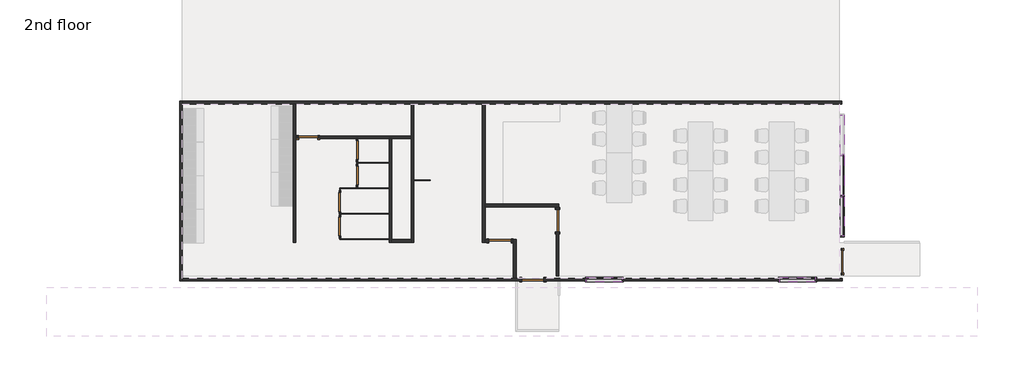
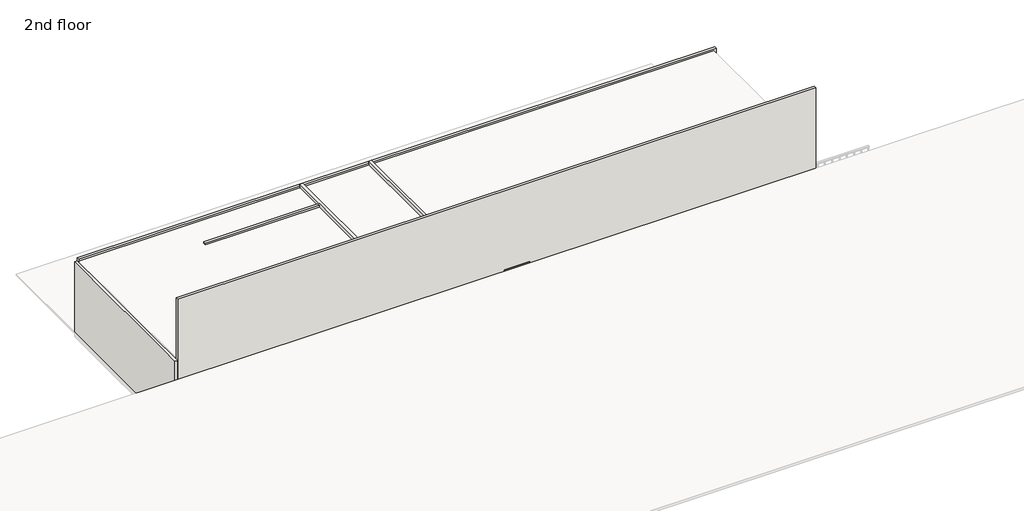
# One storey, part 1 of 2: 21 walls, 14 members, 9 doors, 4 plates.
"""IFC4 building model written with IfcOpenShell, lengths in millimetres."""

from ifc_helpers import new_model, si_unit, frame, origin, place, context, project, spatial, polyline, outline, extrude, faceted_brep, transform, mapped, element, save
from components import m_single_flush_0813_x_2030mm_0e9c7165, m_single_flush_0813_x_2030mm_4a34e6f7, m_single_flush_0813_x_2030mm_d505ac39, m_single_flush_700_x_2030mm_2d3d4a98, m_single_flush_700_x_2030mm_a4fa4ead, m_single_flush_700_x_2030mm_d9138d7c, rectangular_mullion_50_x_150mm_6053375a, rectangular_mullion_50_x_150mm_cc4d4c51, rectangular_mullion_50_x_150mm_379ba6c0, rectangular_mullion_50_x_150mm_e3a7335b, rectangular_mullion_50_x_150mm_22afa1e4, rectangular_mullion_50_x_150mm_1e3c48d4, system_panel_glazed_3a8728e6, system_panel_glazed_0439a472, system_panel_glazed_186aa449

model = new_model("IFC4")

# Units and contexts
model_context = context("Model", 3, world=origin())
ifc_project = project(units=[si_unit("LENGTHUNIT", "METRE", prefix="MILLI")], contexts=[model_context])

# Site, building, storey
site = spatial("IfcSite", under=ifc_project)
building = spatial("IfcBuilding", under=site)
storey = spatial("IfcBuildingStorey", under=building, Name="2nd floor", Elevation=51027.1066037)

# Doors
placement = place(None, origin())
m_single_flush_0813_x_2030mm_shape = m_single_flush_0813_x_2030mm_0e9c7165(model_context)
element("IfcDoor", 1, ObjectType="M_Single-Flush : 0813 x 2030mm", at=placement, inside=storey, context=model_context, shape_type="MappedRepresentation", body=[
    mapped(m_single_flush_0813_x_2030mm_shape, transform((-93269.812261, 13369.2679026, 51027.1066037), x_axis=(-1.0, 0.0, 0.0), y_axis=(0.0, -1.0, 0.0), z_axis=(0.0, 0.0, 1.0))),
])
m_single_flush_0813_x_2030mm_2_shape = m_single_flush_0813_x_2030mm_4a34e6f7(model_context)
element("IfcDoor", 2, ObjectType="M_Single-Flush : 0813 x 2030mm", at=placement, inside=storey, context=model_context, shape_type="MappedRepresentation", body=[
    mapped(m_single_flush_0813_x_2030mm_2_shape, transform((-91169.0398328, 14103.601051, 51027.1066037), x_axis=(0.0, -1.0, 0.0), y_axis=(1.0, 0.0, 0.0), z_axis=(0.0, 0.0, 1.0))),
])
element("IfcDoor", 3, ObjectType="M_Single-Flush : 0813 x 2030mm", at=placement, inside=storey, context=model_context, shape_type="MappedRepresentation", body=[
    mapped(m_single_flush_0813_x_2030mm_2_shape, transform((-92068.4288687, 11958.2777512, 51027.1066037), x_axis=(-1.0, 0.0, 0.0), y_axis=(0.0, -1.0, 0.0), z_axis=(0.0, 0.0, 1.0))),
])
m_single_flush_0813_x_2030mm_3_shape = m_single_flush_0813_x_2030mm_d505ac39(model_context)
element("IfcDoor", 4, ObjectType="M_Single-Flush : 0813 x 2030mm", at=placement, inside=storey, context=model_context, shape_type="MappedRepresentation", body=[
    mapped(m_single_flush_0813_x_2030mm_3_shape, transform((-80781.5917799, 12615.7777512, 51027.1066037), x_axis=(0.0, -1.0, 0.0), y_axis=(1.0, 0.0, 0.0), z_axis=(0.0, 0.0, 1.0))),
])
m_single_flush_700_x_2030mm_shape = m_single_flush_700_x_2030mm_2d3d4a98(model_context)
element("IfcDoor", 5, ObjectType="M_Single-Flush : 700 x 2030mm", at=placement, inside=storey, context=model_context, shape_type="MappedRepresentation", body=[
    mapped(m_single_flush_700_x_2030mm_shape, transform((-98477.8066426, 16685.2754075, 51027.1066037), x_axis=(0.0, 1.0, 0.0), y_axis=(-1.0, 0.0, 0.0), z_axis=(0.0, 0.0, 1.0))),
])
element("IfcDoor", 6, ObjectType="M_Single-Flush : 700 x 2030mm", at=placement, inside=storey, context=model_context, shape_type="MappedRepresentation", body=[
    mapped(m_single_flush_700_x_2030mm_shape, transform((-98477.8066426, 15755.273259, 51027.1066037), x_axis=(0.0, 1.0, 0.0), y_axis=(-1.0, 0.0, 0.0), z_axis=(0.0, 0.0, 1.0))),
])
m_single_flush_700_x_2030mm_2_shape = m_single_flush_700_x_2030mm_a4fa4ead(model_context)
element("IfcDoor", 7, ObjectType="M_Single-Flush : 700 x 2030mm", at=placement, inside=storey, context=model_context, shape_type="MappedRepresentation", body=[
    mapped(m_single_flush_700_x_2030mm_2_shape, transform((-99097.8066426, 14781.2700364, 51027.1066037), x_axis=(0.0, 1.0, 0.0), y_axis=(-1.0, 0.0, 0.0), z_axis=(0.0, 0.0, 1.0))),
])
element("IfcDoor", 8, ObjectType="M_Single-Flush : 700 x 2030mm", at=placement, inside=storey, context=model_context, shape_type="MappedRepresentation", body=[
    mapped(m_single_flush_700_x_2030mm_2_shape, transform((-99097.8066426, 13895.2689695, 51027.1066037), x_axis=(0.0, 1.0, 0.0), y_axis=(-1.0, 0.0, 0.0), z_axis=(0.0, 0.0, 1.0))),
])
m_single_flush_700_x_2030mm_3_shape = m_single_flush_700_x_2030mm_d9138d7c(model_context)
element("IfcDoor", 9, ObjectType="M_Single-Flush : 700 x 2030mm", at=placement, inside=storey, context=model_context, shape_type="MappedRepresentation", body=[
    mapped(m_single_flush_700_x_2030mm_3_shape, transform((-100258.8199239, 17149.2679026, 51027.1066037), x_axis=(-1.0, 0.0, 0.0), y_axis=(0.0, -1.0, 0.0), z_axis=(0.0, 0.0, 1.0))),
])

# Members
rectangular_mullion_50_x_150mm_shape = rectangular_mullion_50_x_150mm_6053375a(model_context)
element("IfcMember", 10, ObjectType="Rectangular Mullion : 50 x 150mm", at=placement, inside=storey, context=model_context, shape_type="MappedRepresentation", body=[
    mapped(rectangular_mullion_50_x_150mm_shape, transform((-80781.5917799, 15007.4703268, 52160.2281004), x_axis=(0.0, -1.0, 0.0), y_axis=(-1.0, 0.0, 0.0), z_axis=(0.0, 0.0, -1.0))),
])
rectangular_mullion_50_x_150mm_2_shape = rectangular_mullion_50_x_150mm_cc4d4c51(model_context)
element("IfcMember", 11, ObjectType="Rectangular Mullion : 50 x 150mm", at=placement, inside=storey, context=model_context, shape_type="MappedRepresentation", body=[
    mapped(rectangular_mullion_50_x_150mm_2_shape, transform((-80781.5917799, 13507.4703267, 52160.2281004), x_axis=(0.0, -1.0, 0.0), y_axis=(-1.0, 0.0, 0.0), z_axis=(0.0, 0.0, -1.0))),
])
rectangular_mullion_50_x_150mm_3_shape = rectangular_mullion_50_x_150mm_379ba6c0(model_context)
element("IfcMember", 12, ObjectType="Rectangular Mullion : 50 x 150mm", at=placement, inside=storey, context=model_context, shape_type="MappedRepresentation", body=[
    mapped(rectangular_mullion_50_x_150mm_3_shape, transform((-80781.5917799, 14982.4703268, 52160.2281004), x_axis=(0.0, 0.0, -1.0), y_axis=(-1.0, 0.0, 0.0), z_axis=(0.0, 1.0, 0.0))),
])
element("IfcMember", 13, ObjectType="Rectangular Mullion : 50 x 150mm", at=placement, inside=storey, context=model_context, shape_type="MappedRepresentation", body=[
    mapped(rectangular_mullion_50_x_150mm_3_shape, transform((-80781.5917799, 13557.4703267, 53127.1066037), x_axis=(0.0, 0.0, 1.0), y_axis=(-1.0, 0.0, 0.0), z_axis=(0.0, -1.0, 0.0))),
])
element("IfcMember", 14, ObjectType="Rectangular Mullion : 50 x 150mm", at=placement, inside=storey, context=model_context, shape_type="MappedRepresentation", body=[
    mapped(rectangular_mullion_50_x_150mm_3_shape, transform((-80781.5917799, 16532.4703266, 53127.1066037), x_axis=(0.0, 0.0, 1.0), y_axis=(-1.0, 0.0, 0.0), z_axis=(0.0, -1.0, 0.0))),
])
rectangular_mullion_50_x_150mm_4_shape = rectangular_mullion_50_x_150mm_e3a7335b(model_context)
element("IfcMember", 15, ObjectType="Rectangular Mullion : 50 x 150mm", at=placement, inside=storey, context=model_context, shape_type="MappedRepresentation", body=[
    mapped(rectangular_mullion_50_x_150mm_4_shape, transform((-80781.5917799, 15032.4703268, 53127.1066037), x_axis=(0.0, 0.0, 1.0), y_axis=(-1.0, 0.0, 0.0), z_axis=(0.0, -1.0, 0.0))),
])
rectangular_mullion_50_x_150mm_5_shape = rectangular_mullion_50_x_150mm_22afa1e4(model_context)
element("IfcMember", 16, ObjectType="Rectangular Mullion : 50 x 150mm", at=placement, inside=storey, context=model_context, shape_type="MappedRepresentation", body=[
    mapped(rectangular_mullion_50_x_150mm_5_shape, transform((-81723.1454492, 11958.2777512, 52018.7758147), x_axis=(1.0, 0.0, 0.0), y_axis=(0.0, -1.0, 0.0), z_axis=(0.0, 0.0, -1.0))),
])
element("IfcMember", 17, ObjectType="Rectangular Mullion : 50 x 150mm", at=placement, inside=storey, context=model_context, shape_type="MappedRepresentation", body=[
    mapped(rectangular_mullion_50_x_150mm_5_shape, transform((-88763.1454492, 11958.2777512, 52018.7758147), x_axis=(1.0, 0.0, 0.0), y_axis=(0.0, -1.0, 0.0), z_axis=(0.0, 0.0, -1.0))),
])
element("IfcMember", 18, ObjectType="Rectangular Mullion : 50 x 150mm", at=placement, inside=storey, context=model_context, shape_type="MappedRepresentation", body=[
    mapped(rectangular_mullion_50_x_150mm_5_shape, transform((-83123.1454492, 11958.2777512, 52927.1066037), x_axis=(-1.0, 0.0, 0.0), y_axis=(0.0, -1.0, 0.0), z_axis=(0.0, 0.0, 1.0))),
])
element("IfcMember", 19, ObjectType="Rectangular Mullion : 50 x 150mm", at=placement, inside=storey, context=model_context, shape_type="MappedRepresentation", body=[
    mapped(rectangular_mullion_50_x_150mm_5_shape, transform((-90163.1454492, 11958.2777512, 52927.1066037), x_axis=(-1.0, 0.0, 0.0), y_axis=(0.0, -1.0, 0.0), z_axis=(0.0, 0.0, 1.0))),
])
rectangular_mullion_50_x_150mm_6_shape = rectangular_mullion_50_x_150mm_1e3c48d4(model_context)
element("IfcMember", 20, ObjectType="Rectangular Mullion : 50 x 150mm", at=placement, inside=storey, context=model_context, shape_type="MappedRepresentation", body=[
    mapped(rectangular_mullion_50_x_150mm_6_shape, transform((-81773.1454492, 11958.2777512, 52927.1066037), x_axis=(0.0, 0.0, 1.0), y_axis=(0.0, -1.0, 0.0), z_axis=(1.0, 0.0, 0.0))),
])
element("IfcMember", 21, ObjectType="Rectangular Mullion : 50 x 150mm", at=placement, inside=storey, context=model_context, shape_type="MappedRepresentation", body=[
    mapped(rectangular_mullion_50_x_150mm_6_shape, transform((-88813.1454492, 11958.2777512, 52927.1066037), x_axis=(0.0, 0.0, 1.0), y_axis=(0.0, -1.0, 0.0), z_axis=(1.0, 0.0, 0.0))),
])
element("IfcMember", 22, ObjectType="Rectangular Mullion : 50 x 150mm", at=placement, inside=storey, context=model_context, shape_type="MappedRepresentation", body=[
    mapped(rectangular_mullion_50_x_150mm_6_shape, transform((-83073.1454492, 11958.2777512, 52018.7758147), x_axis=(0.0, 0.0, -1.0), y_axis=(0.0, -1.0, 0.0), z_axis=(-1.0, 0.0, 0.0))),
])
element("IfcMember", 23, ObjectType="Rectangular Mullion : 50 x 150mm", at=placement, inside=storey, context=model_context, shape_type="MappedRepresentation", body=[
    mapped(rectangular_mullion_50_x_150mm_6_shape, transform((-90113.1454492, 11958.2777512, 52018.7758147), x_axis=(0.0, 0.0, -1.0), y_axis=(0.0, -1.0, 0.0), z_axis=(-1.0, 0.0, 0.0))),
])

# Plates
system_panel_glazed_shape = system_panel_glazed_3a8728e6(model_context)
element("IfcPlate", 24, ObjectType="System Panel : Glazed", at=placement, inside=storey, context=model_context, shape_type="MappedRepresentation", body=[
    mapped(system_panel_glazed_shape, transform((-80781.5917799, 14269.9703267, 52210.2281004), x_axis=(0.0, -1.0, 0.0), y_axis=(1.0, 0.0, 0.0), z_axis=(0.0, 0.0, 1.0))),
])
system_panel_glazed_2_shape = system_panel_glazed_0439a472(model_context)
element("IfcPlate", 25, ObjectType="System Panel : Glazed", at=placement, inside=storey, context=model_context, shape_type="MappedRepresentation", body=[
    mapped(system_panel_glazed_2_shape, transform((-80781.5917799, 15757.4703267, 52210.2281004), x_axis=(0.0, -1.0, 0.0), y_axis=(1.0, 0.0, 0.0), z_axis=(0.0, 0.0, 1.0))),
])
system_panel_glazed_3_shape = system_panel_glazed_186aa449(model_context)
element("IfcPlate", 26, ObjectType="System Panel : Glazed", at=placement, inside=storey, context=model_context, shape_type="MappedRepresentation", body=[
    mapped(system_panel_glazed_3_shape, transform((-82423.1454492, 11958.2777512, 52068.7758147), x_axis=(1.0, 0.0, 0.0), y_axis=(0.0, 1.0, 0.0), z_axis=(0.0, 0.0, 1.0))),
])
element("IfcPlate", 27, ObjectType="System Panel : Glazed", at=placement, inside=storey, context=model_context, shape_type="MappedRepresentation", body=[
    mapped(system_panel_glazed_3_shape, transform((-89463.1454492, 11958.2777512, 52068.7758147), x_axis=(1.0, 0.0, 0.0), y_axis=(0.0, 1.0, 0.0), z_axis=(0.0, 0.0, 1.0))),
])

# Walls
element("IfcWall", 28, ObjectType="Isopanel", at=placement, inside=storey, context=model_context, shape_type="Brep", body=[
    faceted_brep([(-104847.9372768, 12008.2777512, 56267.1066037), (-80781.5917799, 12008.2777512, 56267.1066037), (-80781.5917799, 12008.2777512, 51027.1066037), (-91661.9288687, 12008.2777512, 51027.1066037), (-91661.9288687, 12008.2777512, 53057.1066037), (-92474.9288687, 12008.2777512, 53057.1066037), (-92474.9288687, 12008.2777512, 51027.1066037), (-92674.9288687, 12008.2777512, 51027.1066037), (-92774.9288687, 12008.2777512, 51027.1066037), (-104847.9372768, 12008.2777512, 51027.1066037), (-83123.1454492, 12008.2777512, 52927.1066037), (-83123.1454492, 12008.2777512, 52018.7758147), (-81723.1454492, 12008.2777512, 52018.7758147), (-81723.1454492, 12008.2777512, 52927.1066037), (-90163.1454492, 12008.2777512, 52927.1066037), (-90163.1454492, 12008.2777512, 52018.7758147), (-88763.1454492, 12008.2777512, 52018.7758147), (-88763.1454492, 12008.2777512, 52927.1066037), (-80781.5917799, 11908.2777512, 56267.1066037), (-104847.9372768, 11908.2777512, 56267.1066037), (-104847.9372768, 11908.2777512, 53827.1066037), (-104847.9372768, 11908.2777512, 51027.1066037), (-92474.9288687, 11908.2777512, 51027.1066037), (-92474.9288687, 11908.2777512, 53057.1066037), (-91661.9288687, 11908.2777512, 53057.1066037), (-91661.9288687, 11908.2777512, 51027.1066037), (-80781.5917799, 11908.2777512, 51027.1066037), (-83123.1454492, 11908.2777512, 52018.7758147), (-83123.1454492, 11908.2777512, 52927.1066037), (-81723.1454492, 11908.2777512, 52927.1066037), (-81723.1454492, 11908.2777512, 52018.7758147), (-90163.1454492, 11908.2777512, 52018.7758147), (-90163.1454492, 11908.2777512, 52927.1066037), (-88763.1454492, 11908.2777512, 52927.1066037), (-88763.1454492, 11908.2777512, 52018.7758147)], [[[0, 1, 2, 3, 4, 5, 6, 7, 8, 9], [10, 11, 12, 13], [14, 15, 16, 17]], [[18, 19, 20, 21, 22, 23, 24, 25, 26], [27, 28, 29, 30], [31, 32, 33, 34]], [[2, 26, 25, 3]], [[21, 9, 8, 7, 6, 22]], [[1, 0, 19, 18]], [[2, 1, 18, 26]], [[23, 22, 6, 5]], [[24, 23, 5, 4]], [[25, 24, 4, 3]], [[9, 21, 20, 19, 0]], [[27, 11, 10, 28]], [[28, 10, 13, 29]], [[29, 13, 12, 30]], [[11, 27, 30, 12]], [[31, 15, 14, 32]], [[32, 14, 17, 33]], [[33, 17, 16, 34]], [[15, 31, 34, 16]]]),
])
element("IfcWall", 29, ObjectType="22 Partition", at=placement, inside=storey, context=model_context, shape_type="SweptSolid", body=[
    extrude(outline(polyline([(-97308.8066426, 13419.2679026), (-97905.4734789, 13419.2679026), (-97905.4734789, 13441.2679026), (-97308.8066426, 13441.2679026), (-97308.8066426, 13419.2679026)])), frame((0.0, 0.0, 51027.1066037), z_axis=(0.0, 0.0, 1.0), x_axis=(1.0, 0.0, 0.0)), (0.0, 0.0, 1.0), 2000.0),
])
element("IfcWall", 30, ObjectType="22 Partition", at=placement, inside=storey, context=model_context, shape_type="Brep", body=[
    faceted_brep([(-99086.8066426, 15131.2700364, 53027.1066037), (-99086.8066426, 15131.2700364, 51027.1066037), (-99086.8066426, 15279.2721848, 51027.1066037), (-99086.8066426, 15301.2721848, 51027.1066037), (-99086.8066426, 15301.2721848, 53027.1066037), (-99086.8066426, 15279.2721848, 53027.1066037), (-99108.8066426, 15131.2700364, 51027.1066037), (-99108.8066426, 15131.2700364, 53027.1066037), (-99108.8066426, 15301.2721848, 53027.1066037), (-99108.8066426, 15301.2721848, 51027.1066037)], [[[0, 1, 2, 3, 4, 5]], [[6, 7, 8, 9]], [[1, 6, 9, 3, 2]], [[7, 0, 5, 4, 8]], [[1, 0, 7, 6]], [[4, 3, 9, 8]]]),
    faceted_brep([(-99086.8066426, 14431.2700364, 51027.1066037), (-99086.8066426, 14431.2700364, 53027.1066037), (-99086.8066426, 14371.2700364, 53027.1066037), (-99086.8066426, 14349.2700364, 53027.1066037), (-99086.8066426, 14245.2689695, 53027.1066037), (-99086.8066426, 14245.2689695, 51027.1066037), (-99086.8066426, 14349.2700364, 51027.1066037), (-99086.8066426, 14371.2700364, 51027.1066037), (-99108.8066426, 14431.2700364, 53027.1066037), (-99108.8066426, 14431.2700364, 51027.1066037), (-99108.8066426, 14245.2689695, 51027.1066037), (-99108.8066426, 14245.2689695, 53027.1066037)], [[[0, 1, 2, 3, 4, 5, 6, 7]], [[8, 9, 10, 11]], [[9, 0, 7, 6, 5, 10]], [[1, 8, 11, 4, 3, 2]], [[1, 0, 9, 8]], [[5, 4, 11, 10]]]),
    faceted_brep([(-99086.8066426, 13419.2679026, 53027.1066037), (-99086.8066426, 13419.2679026, 51027.1066037), (-99086.8066426, 13441.2679026, 51027.1066037), (-99086.8066426, 13545.2689695, 51027.1066037), (-99086.8066426, 13545.2689695, 53027.1066037), (-99086.8066426, 13441.2679026, 53027.1066037), (-99108.8066426, 13419.2679026, 51027.1066037), (-99108.8066426, 13419.2679026, 53027.1066037), (-99108.8066426, 13545.2689695, 53027.1066037), (-99108.8066426, 13545.2689695, 51027.1066037)], [[[0, 1, 2, 3, 4, 5]], [[6, 7, 8, 9]], [[1, 6, 9, 3, 2]], [[7, 0, 5, 4, 8]], [[1, 0, 7, 6]], [[4, 3, 9, 8]]]),
])
element("IfcWall", 31, ObjectType="22 Partition", at=placement, inside=storey, context=model_context, shape_type="SweptSolid", body=[
    extrude(outline(polyline([(-99086.8066426, 14371.2700364), (-97318.8066426, 14371.2700364), (-97318.8066426, 14349.2700364), (-99086.8066426, 14349.2700364), (-99086.8066426, 14371.2700364)])), frame((0.0, 0.0, 51027.1066037), z_axis=(0.0, 0.0, 1.0), x_axis=(1.0, 0.0, 0.0)), (0.0, 0.0, 1.0), 2000.0),
])
element("IfcWall", 32, ObjectType="22 Partition", at=placement, inside=storey, context=model_context, shape_type="Brep", body=[
    faceted_brep([(-97318.8066426, 15301.2721848, 51027.1066037), (-98466.8066426, 15301.2721848, 51027.1066037), (-98488.8066426, 15301.2721848, 51027.1066037), (-99086.8066426, 15301.2721848, 51027.1066037), (-99086.8066426, 15301.2721848, 53027.1066037), (-98488.8066426, 15301.2721848, 53027.1066037), (-98466.8066426, 15301.2721848, 53027.1066037), (-97318.8066426, 15301.2721848, 53027.1066037), (-97318.8066426, 15279.2721848, 51027.1066037), (-97318.8066426, 15279.2721848, 53027.1066037), (-99086.8066426, 15279.2721848, 53027.1066037), (-99086.8066426, 15279.2721848, 51027.1066037)], [[[0, 1, 2, 3, 4, 5, 6, 7]], [[8, 9, 10, 11]], [[3, 2, 1, 0, 8, 11]], [[7, 6, 5, 4, 10, 9]], [[0, 7, 9, 8]], [[4, 3, 11, 10]]]),
])
element("IfcWall", 33, ObjectType="22 Partition", at=placement, inside=storey, context=model_context, shape_type="SweptSolid", body=[
    extrude(outline(polyline([(-98466.8066426, 16231.2743333), (-97318.8066426, 16231.2743333), (-97318.8066426, 16209.2743333), (-98466.8066426, 16209.2743333), (-98466.8066426, 16231.2743333)])), frame((0.0, 0.0, 51027.1066037), z_axis=(0.0, 0.0, 1.0), x_axis=(1.0, 0.0, 0.0)), (0.0, 0.0, 1.0), 2000.0),
])
element("IfcWall", 34, ObjectType="22 Partition", at=placement, inside=storey, context=model_context, shape_type="SweptSolid", body=[
    extrude(outline(polyline([(-99086.8066426, 13441.2679026), (-97318.8066426, 13441.2679026), (-97318.8066426, 13419.2679026), (-99086.8066426, 13419.2679026), (-99086.8066426, 13441.2679026)])), frame((0.0, 0.0, 51027.1066037), z_axis=(0.0, 0.0, 1.0), x_axis=(1.0, 0.0, 0.0)), (0.0, 0.0, 1.0), 2000.0),
])
element("IfcWall", 35, ObjectType="22 Partition", at=placement, inside=storey, context=model_context, shape_type="Brep", body=[
    faceted_brep([(-98466.8066426, 17035.2754075, 51027.1066037), (-98466.8066426, 17099.2679026, 51027.1066037), (-98466.8066426, 17099.2679026, 53027.1066037), (-98466.8066426, 17035.2754075, 53027.1066037), (-98488.8066426, 17035.2754075, 53027.1066037), (-98488.8066426, 17099.2679026, 53027.1066037), (-98488.8066426, 17099.2679026, 51027.1066037), (-98488.8066426, 17035.2754075, 51027.1066037)], [[[0, 1, 2, 3]], [[4, 5, 6, 7]], [[1, 0, 7, 6]], [[3, 2, 5, 4]], [[0, 3, 4, 7]], [[2, 1, 6, 5]]]),
    faceted_brep([(-98466.8066426, 16335.2754075, 51027.1066037), (-98466.8066426, 16335.2754075, 53027.1066037), (-98466.8066426, 16231.2743333, 53027.1066037), (-98466.8066426, 16209.2743333, 53027.1066037), (-98466.8066426, 16105.273259, 53027.1066037), (-98466.8066426, 16105.273259, 51027.1066037), (-98466.8066426, 16209.2743333, 51027.1066037), (-98466.8066426, 16231.2743333, 51027.1066037), (-98488.8066426, 16335.2754075, 53027.1066037), (-98488.8066426, 16335.2754075, 51027.1066037), (-98488.8066426, 16105.273259, 51027.1066037), (-98488.8066426, 16105.273259, 53027.1066037)], [[[0, 1, 2, 3, 4, 5, 6, 7]], [[8, 9, 10, 11]], [[9, 0, 7, 6, 5, 10]], [[1, 8, 11, 4, 3, 2]], [[1, 0, 9, 8]], [[5, 4, 11, 10]]]),
    faceted_brep([(-98466.8066426, 15301.2721848, 53027.1066037), (-98466.8066426, 15301.2721848, 51027.1066037), (-98466.8066426, 15405.273259, 51027.1066037), (-98466.8066426, 15405.273259, 53027.1066037), (-98488.8066426, 15301.2721848, 51027.1066037), (-98488.8066426, 15301.2721848, 53027.1066037), (-98488.8066426, 15405.273259, 53027.1066037), (-98488.8066426, 15405.273259, 51027.1066037)], [[[0, 1, 2, 3]], [[4, 5, 6, 7]], [[1, 4, 7, 2]], [[5, 0, 3, 6]], [[3, 2, 7, 6]], [[1, 0, 5, 4]]]),
])
element("IfcWall", 36, ObjectType="wall 50 Partition", at=placement, inside=storey, context=model_context, shape_type="SweptSolid", body=[
    extrude(outline(polyline([(-95808.8066426, 15571.2721848), (-96408.8066426, 15571.2721848), (-96408.8066426, 15601.2721848), (-95808.8066426, 15601.2721848), (-95808.8066426, 15571.2721848)])), frame((0.0, 0.0, 51027.1066037), z_axis=(0.0, 0.0, 1.0), x_axis=(1.0, 0.0, 0.0)), (0.0, 0.0, 1.0), 2000.0),
])
element("IfcWall", 37, ObjectType="wall 90 Partition", at=placement, inside=storey, context=model_context, shape_type="Brep", body=[
    faceted_brep([(-104947.9372768, 18469.2777512, 51027.1066037), (-104947.9372768, 12008.2777512, 51027.1066037), (-104947.9372768, 11908.2777512, 51027.1066037), (-104947.9372768, 11908.2777512, 53470.0), (-104947.9372768, 11908.2777512, 53827.1066037), (-104947.9372768, 18469.2777512, 53827.1066037), (-104847.9372768, 18469.2777512, 51027.1066037), (-104847.9372768, 18469.2777512, 53827.1066037), (-104847.9372768, 11908.2777512, 53827.1066037), (-104847.9372768, 11908.2777512, 51027.1066037), (-104847.9372768, 12008.2777512, 51027.1066037), (-104847.9372768, 18369.2777512, 51027.1066037)], [[[0, 1, 2, 3, 4, 5]], [[6, 7, 8, 9, 10, 11]], [[0, 5, 7, 6]], [[4, 3, 2, 9, 8]], [[2, 1, 0, 6, 11, 10, 9]], [[5, 4, 8, 7]]]),
])
element("IfcWall", 38, ObjectType="wall 90 Partition", at=placement, inside=storey, context=model_context, shape_type="Brep", body=[
    faceted_brep([(-93808.8066175, 13319.2679026, 51027.1066037), (-93808.8066175, 13419.2679026, 51027.1066037), (-93808.8066175, 14619.2679026, 51027.1066037), (-93808.8066175, 14719.2679026, 51027.1066037), (-93808.8066175, 18369.2777512, 51027.1066037), (-93808.8066175, 18369.2777512, 54027.1066037), (-93808.8066175, 13319.2679026, 54027.1066037), (-93808.8066175, 13319.2679026, 53947.1066037), (-93908.8066175, 13319.2679026, 51027.1066037), (-93908.8066175, 13319.2679026, 54027.1066037), (-93908.8066175, 18369.2777512, 54027.1066037), (-93908.8066175, 18369.2777512, 51027.1066037)], [[[0, 1, 2, 3, 4, 5, 6, 7]], [[8, 9, 10, 11]], [[5, 4, 11, 10]], [[0, 7, 6, 9, 8]], [[4, 3, 2, 1, 0, 8, 11]], [[6, 5, 10, 9]]]),
])
element("IfcWall", 39, ObjectType="wall 90 Partition", at=placement, inside=storey, context=model_context, shape_type="Brep", body=[
    faceted_brep([(-96408.8066426, 13319.2679026, 51027.1066037), (-96408.8066426, 15571.2721848, 51027.1066037), (-96408.8066426, 15601.2721848, 51027.1066037), (-96408.8066426, 18369.2777512, 51027.1066037), (-96408.8066426, 18369.2777512, 54027.1066037), (-96408.8066426, 13319.2679026, 54027.1066037), (-96508.8066426, 13319.2679026, 51027.1066037), (-96508.8066426, 13319.2679026, 53027.1066037), (-96508.8066426, 13319.2679026, 54027.1066037), (-96508.8066426, 18369.2777512, 54027.1066037), (-96508.8066426, 18369.2777512, 51027.1066037), (-96508.8066426, 17199.2679026, 51027.1066037), (-96508.8066426, 17099.2679026, 51027.1066037), (-96508.8066426, 13419.2679026, 51027.1066037)], [[[0, 1, 2, 3, 4, 5]], [[6, 7, 8, 9, 10, 11, 12, 13]], [[0, 5, 8, 7, 6]], [[4, 3, 10, 9]], [[3, 2, 1, 0, 6, 13, 12, 11, 10]], [[5, 4, 9, 8]]]),
])
element("IfcWall", 40, ObjectType="wall 90 Partition", at=placement, inside=storey, context=model_context, shape_type="Brep", body=[
    faceted_brep([(-97208.8066426, 13319.2679026, 51027.1066037), (-97208.8066426, 13419.2679026, 51027.1066037), (-97208.8066426, 17099.2679026, 51027.1066037), (-97208.8066426, 17099.2679026, 53027.1066037), (-97208.8066426, 13419.2679026, 53027.1066037), (-97208.8066426, 13319.2679026, 53027.1066037), (-97308.8066426, 13319.2679026, 51027.1066037), (-97308.8066426, 13319.2679026, 53027.1066037), (-97308.8066426, 13419.2679026, 53027.1066037), (-97308.8066426, 13441.2679026, 53027.1066037), (-97308.8066426, 17099.2679026, 53027.1066037), (-97308.8066426, 17099.2679026, 51027.1066037), (-97308.8066426, 13441.2679026, 51027.1066037), (-97308.8066426, 13419.2679026, 51027.1066037)], [[[0, 1, 2, 3, 4, 5]], [[6, 7, 8, 9, 10, 11, 12, 13]], [[2, 1, 0, 6, 13, 12, 11]], [[5, 4, 3, 10, 9, 8, 7]], [[0, 5, 7, 6]], [[3, 2, 11, 10]]]),
])
element("IfcWall", 41, ObjectType="wall 90 Partition", at=placement, inside=storey, context=model_context, shape_type="Brep", body=[
    faceted_brep([(-80800.5917799, 18469.2777512, 51027.1066037), (-104847.9372768, 18469.2777512, 51027.1066037), (-104847.9372768, 18469.2777512, 53827.1066037), (-104847.9372768, 18469.2777512, 53947.1066037), (-80800.5917799, 18469.2777512, 53947.1066037), (-80800.5917799, 18369.2777512, 51027.1066037), (-80800.5917799, 18369.2777512, 53947.1066037), (-104847.9372768, 18369.2777512, 53947.1066037), (-104847.9372768, 18369.2777512, 51027.1066037), (-100808.8199239, 18369.2777512, 51027.1066037), (-100708.8199239, 18369.2777512, 51027.1066037), (-96508.8066426, 18369.2777512, 51027.1066037), (-96408.8066426, 18369.2777512, 51027.1066037), (-93908.8066175, 18369.2777512, 51027.1066037), (-93808.8066175, 18369.2777512, 51027.1066037)], [[[0, 1, 2, 3, 4]], [[5, 6, 7, 8, 9, 10, 11, 12, 13, 14]], [[1, 0, 5, 14, 13, 12, 11, 10, 9, 8]], [[4, 3, 7, 6]], [[3, 2, 1, 8, 7]], [[0, 4, 6, 5]]]),
])
element("IfcWall", 42, ObjectType="wall 90 Partition", at=placement, inside=storey, context=model_context, shape_type="SweptSolid", body=[
    extrude(outline(polyline([(-97208.8066426, 13419.2679026), (-96508.8066426, 13419.2679026), (-96508.8066426, 13319.2679026), (-97208.8066426, 13319.2679026), (-97208.8066426, 13419.2679026)])), frame((0.0, 0.0, 51027.1066037), z_axis=(0.0, 0.0, 1.0), x_axis=(1.0, 0.0, 0.0)), (0.0, 0.0, 1.0), 2000.0),
])
element("IfcWall", 43, ObjectType="wall 90 Partition", at=placement, inside=storey, context=model_context, shape_type="Brep", body=[
    faceted_brep([(-100708.8199239, 13319.2679026, 51027.1066037), (-100708.8199239, 17099.2679026, 51027.1066037), (-100708.8199239, 17199.2679026, 51027.1066037), (-100708.8199239, 18369.2777512, 51027.1066037), (-100708.8199239, 18369.2777512, 53027.1066037), (-100708.8199239, 17199.2679026, 53027.1066037), (-100708.8199239, 17099.2679026, 53027.1066037), (-100708.8199239, 13319.2679026, 53027.1066037), (-100808.8199239, 13319.2679026, 51027.1066037), (-100808.8199239, 13319.2679026, 53027.1066037), (-100808.8199239, 17099.2679026, 53027.1066037), (-100808.8199239, 17199.2679026, 53027.1066037), (-100808.8199239, 18369.2777512, 53027.1066037), (-100808.8199239, 18369.2777512, 51027.1066037)], [[[0, 1, 2, 3, 4, 5, 6, 7]], [[8, 9, 10, 11, 12, 13]], [[3, 2, 1, 0, 8, 13]], [[7, 6, 5, 4, 12, 11, 10, 9]], [[0, 7, 9, 8]], [[4, 3, 13, 12]]]),
])
element("IfcWall", 44, ObjectType="wall 90 Partition", at=placement, inside=storey, context=model_context, shape_type="Brep", body=[
    faceted_brep([(-92674.9288687, 12008.2777512, 51027.1066037), (-92674.9288687, 13419.2679026, 51027.1066037), (-92674.9288687, 13419.2679026, 53827.1066037), (-92674.9288687, 12008.2777512, 53827.1066037), (-92774.9288687, 12008.2777512, 51027.1066037), (-92774.9288687, 12008.2777512, 53827.1066037), (-92774.9288687, 13419.2679026, 53827.1066037), (-92774.9288687, 13419.2679026, 51027.1066037), (-92774.9288687, 13319.2679026, 51027.1066037)], [[[0, 1, 2, 3]], [[4, 5, 6, 7, 8]], [[2, 1, 7, 6]], [[0, 3, 5, 4]], [[1, 0, 4, 8, 7]], [[3, 2, 6, 5]]]),
])
element("IfcWall", 45, ObjectType="wall 90 Partition", at=placement, inside=storey, context=model_context, shape_type="Brep", body=[
    faceted_brep([(-93808.8066175, 13419.2679026, 51027.1066037), (-93808.8066175, 13419.2679026, 53947.1066037), (-92774.9288687, 13419.2679026, 53947.1066037), (-92774.9288687, 13419.2679026, 53827.1066037), (-92774.9288687, 13419.2679026, 51027.1066037), (-92863.312261, 13419.2679026, 51027.1066037), (-92863.312261, 13419.2679026, 53057.1066037), (-93676.312261, 13419.2679026, 53057.1066037), (-93676.312261, 13419.2679026, 51027.1066037), (-93808.8066175, 13319.2679026, 53947.1066037), (-93808.8066175, 13319.2679026, 51027.1066037), (-93676.312261, 13319.2679026, 51027.1066037), (-93676.312261, 13319.2679026, 53057.1066037), (-92863.312261, 13319.2679026, 53057.1066037), (-92863.312261, 13319.2679026, 51027.1066037), (-92774.9288687, 13319.2679026, 51027.1066037), (-92774.9288687, 13319.2679026, 53947.1066037)], [[[0, 1, 2, 3, 4, 5, 6, 7, 8]], [[9, 10, 11, 12, 13, 14, 15, 16]], [[1, 0, 10, 9]], [[4, 3, 2, 16, 15]], [[7, 12, 11, 8]], [[13, 6, 5, 14]], [[4, 15, 14, 5]], [[10, 0, 8, 11]], [[2, 1, 9, 16]], [[6, 13, 12, 7]]]),
])
element("IfcWall", 46, ObjectType="wall 90 Partition", at=placement, inside=storey, context=model_context, shape_type="Brep", body=[
    faceted_brep([(-93808.8066175, 14619.2679026, 51027.1066037), (-91219.0398328, 14619.2679026, 51027.1066037), (-91119.0398328, 14619.2679026, 51027.1066037), (-91119.0398328, 14619.2679026, 53827.1066037), (-91219.0398328, 14619.2679026, 53827.1066037), (-93808.8066175, 14619.2679026, 53827.1066037), (-93808.8066175, 14719.2679026, 51027.1066037), (-93808.8066175, 14719.2679026, 53827.1066037), (-91119.0398328, 14719.2679026, 53827.1066037), (-91119.0398328, 14719.2679026, 51027.1066037)], [[[0, 1, 2, 3, 4, 5]], [[6, 7, 8, 9]], [[2, 1, 0, 6, 9]], [[5, 4, 3, 8, 7]], [[0, 5, 7, 6]], [[3, 2, 9, 8]]]),
])
element("IfcWall", 47, ObjectType="wall 90 Partition", at=placement, inside=storey, context=model_context, shape_type="SweptSolid", body=[
    extrude(outline(polyline([(12097.101051, 51027.1066037), (12097.101051, 53827.1066037), (14619.2679026, 53827.1066037), (14619.2679026, 51027.1066037), (14510.101051, 51027.1066037), (14510.101051, 53057.1066037), (13697.101051, 53057.1066037), (13697.101051, 51027.1066037), (12097.101051, 51027.1066037)])), frame((-91219.0398328, 0.0, 0.0), z_axis=(1.0, 0.0, 0.0), x_axis=(0.0, 1.0, 0.0)), (0.0, 0.0, 1.0), 100.0),
])
element("IfcWall", 48, ObjectType="wall 90 Partition", at=placement, inside=storey, context=model_context, shape_type="Brep", body=[
    faceted_brep([(-100808.8199239, 17199.2679026, 53947.1066037), (-96508.8066426, 17199.2679026, 53947.1066037), (-96508.8066426, 17199.2679026, 51027.1066037), (-99908.8199239, 17199.2679026, 51027.1066037), (-99908.8199239, 17199.2679026, 53057.1066037), (-100608.8199239, 17199.2679026, 53057.1066037), (-100608.8199239, 17199.2679026, 51027.1066037), (-100708.8199239, 17199.2679026, 51027.1066037), (-100708.8199239, 17199.2679026, 53027.1066037), (-100808.8199239, 17199.2679026, 53027.1066037), (-96508.8066426, 17099.2679026, 53947.1066037), (-100808.8199239, 17099.2679026, 53947.1066037), (-100808.8199239, 17099.2679026, 53027.1066037), (-100708.8199239, 17099.2679026, 53027.1066037), (-100708.8199239, 17099.2679026, 51027.1066037), (-100608.8199239, 17099.2679026, 51027.1066037), (-100608.8199239, 17099.2679026, 53057.1066037), (-99908.8199239, 17099.2679026, 53057.1066037), (-99908.8199239, 17099.2679026, 51027.1066037), (-98488.8066426, 17099.2679026, 51027.1066037), (-98466.8066426, 17099.2679026, 51027.1066037), (-97308.8066426, 17099.2679026, 51027.1066037), (-97208.8066426, 17099.2679026, 51027.1066037), (-96508.8066426, 17099.2679026, 51027.1066037)], [[[0, 1, 2, 3, 4, 5, 6, 7, 8, 9]], [[10, 11, 12, 13, 14, 15, 16, 17, 18, 19, 20, 21, 22, 23]], [[2, 23, 22, 21, 20, 19, 18, 3]], [[6, 15, 14, 7]], [[11, 0, 9, 12]], [[1, 0, 11, 10]], [[13, 8, 7, 14]], [[8, 13, 12, 9]], [[2, 1, 10, 23]], [[16, 15, 6, 5]], [[17, 16, 5, 4]], [[18, 17, 4, 3]]]),
])

save(model, "model.ifc")
